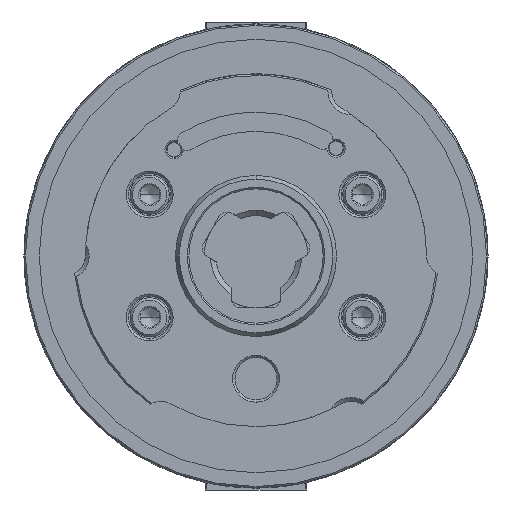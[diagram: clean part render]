
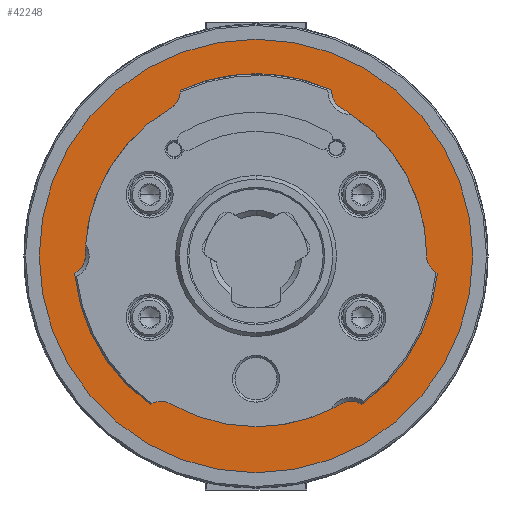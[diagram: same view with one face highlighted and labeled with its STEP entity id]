
A CAD part, front view. The second image highlights one B-rep face of the part: STEP entity #42248.
In plain terms, the highlighted planar face has unit normal (0, -1, 0).
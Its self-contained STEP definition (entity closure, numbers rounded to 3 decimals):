
#986 = PLANE ( 'NONE',  #28194 ) ;
#1084 = CARTESIAN_POINT ( 'NONE',  ( 0., -26.5, 56.5 ) ) ;
#1797 = CARTESIAN_POINT ( 'NONE',  ( 0., -26.5, 44.5 ) ) ;
#1800 = CARTESIAN_POINT ( 'NONE',  ( 0., -26.5, 0. ) ) ;
#1825 = CARTESIAN_POINT ( 'NONE',  ( 0., -26.5, -56.5 ) ) ;
#2656 = EDGE_CURVE ( 'NONE', #30413, #34109, #33608, .T. ) ;
#2964 = DIRECTION ( 'NONE',  ( 0., 0., -1. ) ) ;
#5044 = FACE_BOUND ( 'NONE', #45738, .T. ) ;
#6182 = CIRCLE ( 'NONE', #28569, 56.5 ) ;
#6994 = DIRECTION ( 'NONE',  ( 0., 1., 0. ) ) ;
#9137 = DIRECTION ( 'NONE',  ( 0., 0., -1. ) ) ;
#10838 = DIRECTION ( 'NONE',  ( 0., 1., 0. ) ) ;
#10931 = EDGE_LOOP ( 'NONE', ( #41021, #19906 ) ) ;
#13719 = VERTEX_POINT ( 'NONE', #1084 ) ;
#14546 = ORIENTED_EDGE ( 'NONE', *, *, #46598, .T. ) ;
#19906 = ORIENTED_EDGE ( 'NONE', *, *, #50472, .F. ) ;
#21269 = EDGE_CURVE ( 'NONE', #41111, #13719, #24692, .T. ) ;
#21496 = FACE_OUTER_BOUND ( 'NONE', #10931, .T. ) ;
#22046 = DIRECTION ( 'NONE',  ( 0., 1., 0. ) ) ;
#24692 = CIRCLE ( 'NONE', #44489, 56.5 ) ;
#26679 = AXIS2_PLACEMENT_3D ( 'NONE', #31347, #10838, #33515 ) ;
#28194 = AXIS2_PLACEMENT_3D ( 'NONE', #33906, #50381, #28496 ) ;
#28496 = DIRECTION ( 'NONE',  ( 0., 0., 1. ) ) ;
#28569 = AXIS2_PLACEMENT_3D ( 'NONE', #1800, #22046, #31181 ) ;
#30413 = VERTEX_POINT ( 'NONE', #1797 ) ;
#31181 = DIRECTION ( 'NONE',  ( 0., 0., -1. ) ) ;
#31347 = CARTESIAN_POINT ( 'NONE',  ( 0., -26.5, 0. ) ) ;
#33038 = CIRCLE ( 'NONE', #46823, 44.5 ) ;
#33515 = DIRECTION ( 'NONE',  ( 0., 0., -1. ) ) ;
#33608 = CIRCLE ( 'NONE', #26679, 44.5 ) ;
#33906 = CARTESIAN_POINT ( 'NONE',  ( 0., -26.5, -56.5 ) ) ;
#34109 = VERTEX_POINT ( 'NONE', #44676 ) ;
#38831 = CARTESIAN_POINT ( 'NONE',  ( 0., -26.5, 0. ) ) ;
#41021 = ORIENTED_EDGE ( 'NONE', *, *, #21269, .F. ) ;
#41111 = VERTEX_POINT ( 'NONE', #1825 ) ;
#41565 = ORIENTED_EDGE ( 'NONE', *, *, #2656, .T. ) ;
#42248 = ADVANCED_FACE ( 'NONE', ( #5044, #21496 ), #986, .T. ) ;
#43966 = CARTESIAN_POINT ( 'NONE',  ( 0., -26.5, 0. ) ) ;
#44489 = AXIS2_PLACEMENT_3D ( 'NONE', #38831, #46104, #9137 ) ;
#44676 = CARTESIAN_POINT ( 'NONE',  ( 0., -26.5, -44.5 ) ) ;
#45738 = EDGE_LOOP ( 'NONE', ( #14546, #41565 ) ) ;
#46104 = DIRECTION ( 'NONE',  ( 0., 1., 0. ) ) ;
#46598 = EDGE_CURVE ( 'NONE', #34109, #30413, #33038, .T. ) ;
#46823 = AXIS2_PLACEMENT_3D ( 'NONE', #43966, #6994, #2964 ) ;
#50381 = DIRECTION ( 'NONE',  ( 0., -1., 0. ) ) ;
#50472 = EDGE_CURVE ( 'NONE', #13719, #41111, #6182, .T. ) ;
